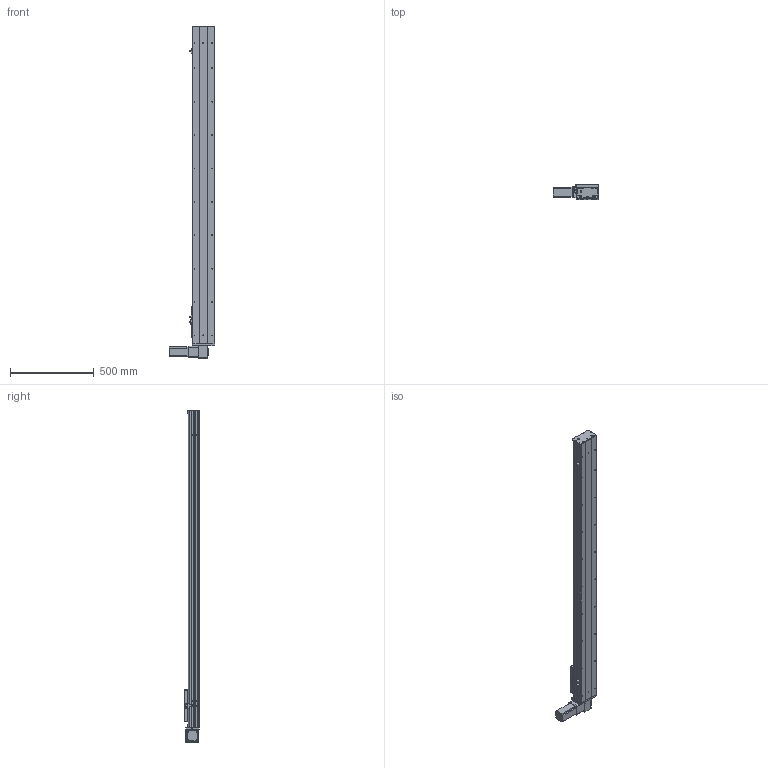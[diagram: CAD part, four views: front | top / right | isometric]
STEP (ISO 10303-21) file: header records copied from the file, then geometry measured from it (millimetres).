
FILE_DESCRIPTION (( 'STEP AP203' ), '1' );
FILE_NAME ('Y135CB-D90-S1600-BD-P400W.STEP', '2020-02-19T03:46:27', ( '微软用户' ), ( '微软中国' ), 'SwSTEP 2.0', 'SolidWorks 2017', '' );
FILE_SCHEMA (( 'CONFIG_CONTROL_DESIGN' ));
Length unit declared in the file: millimetre
Products named in the file (16): Y135CB-耜裔; Y100-135俋离換覜ん--; 135CB---遴掛极.-; Y135C-陔俋离換覜結え-; 35CB---喘謫眊楊擘啣; 5C--俋欶; 0B-埴倛裔啣; C-雄赽釱--; 0B-源倛裔啣; Y10B--々湍喘謫眊--666; san松下电机400不带刹车----; 0B-薊粣ん眊; 5CB --掛极耜裔啣-; Y135CB-D90-S1600-BD-P400W; C-詩湍揤踡え-陔; 135CB--詩湍-CE
Assembly tree (19 placements, depth 2):
  Y135CB-D90-S1600-BD-P400W
    Y135CB-耜裔
    135CB---遴掛极.-
    35CB---喘謫眊楊擘啣
    0B-埴倛裔啣
    0B-源倛裔啣
    san松下电机400不带刹车----
    5CB --掛极耜裔啣-  x2
    C-詩湍揤踡え-陔  x2
    135CB--詩湍-CE
    Y100-135俋离換覜ん--  x3
    Y135C-陔俋离換覜結え-
    5C--俋欶
    C-雄赽釱--
    Y10B--々湍喘謫眊--666
    0B-薊粣ん眊
Bounding box: 272 x 91 x 1988 mm (x, y, z)
Volume: 5944939.1 mm3; surface area: 2298010.8 mm2
Topology: 19 solids, 19 shells, 867 faces, 2320 edges, 1536 vertices
Faces by surface type: cylinder 436, plane 415, cone 16
Entity records: 26612 total; most frequent: DIRECTION 4436, CARTESIAN_POINT 4379, ORIENTED_EDGE 4116, EDGE_CURVE 2058, AXIS2_PLACEMENT_3D 1629, VERTEX_POINT 1364, LINE 1178, VECTOR 1178
